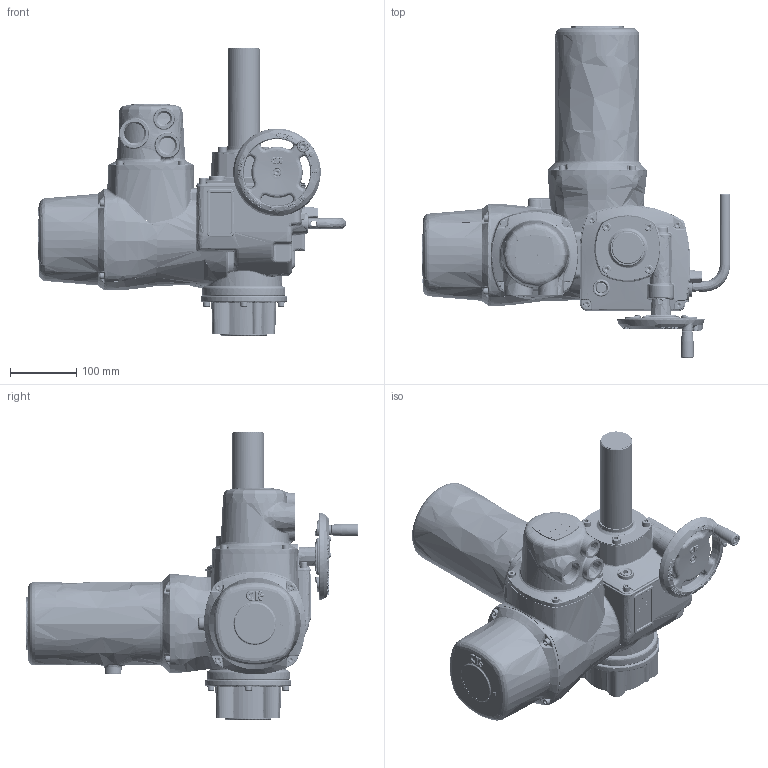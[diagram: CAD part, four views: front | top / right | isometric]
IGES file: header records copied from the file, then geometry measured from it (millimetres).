
Start section: C
Global section: file name: CK120 F10 THRUST BASE - AID & LARGE MOTOR.igs; native system: By Siemens PLM Incorporated; preprocessor: XPlus GENERIC/IGES 19.0.9; author: Author; organization: Title; date: 20170823.183826; units: millimetre
Bounding box: 464.35 x 499.65 x 432.33 mm (x, y, z)
Surface area: 599873.8 mm2 (no closed solid volume)
Topology: 0 solids, 0 shells, 5067 faces, 29346 edges, 29101 vertices
Faces by surface type: bspline 5067
